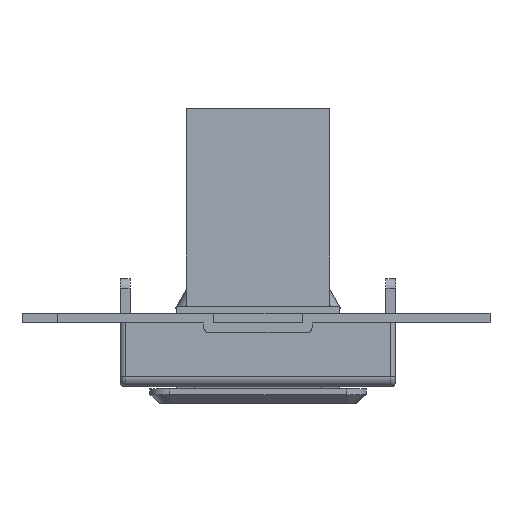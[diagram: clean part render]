
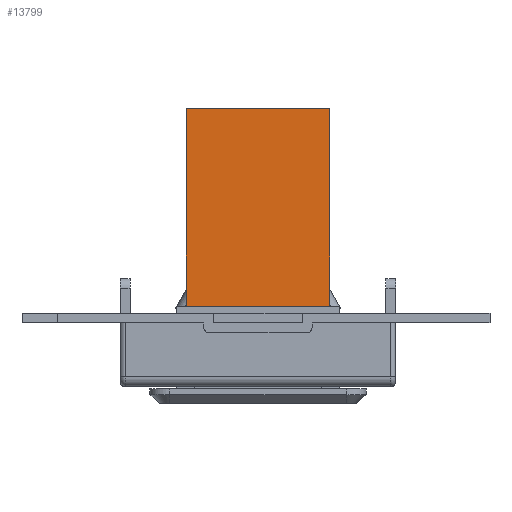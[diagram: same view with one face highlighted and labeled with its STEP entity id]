
A CAD part, front view. The second image highlights one B-rep face of the part: STEP entity #13799.
In plain terms, the highlighted free-form (B-spline) face has degree [1, 1] with [2, 2] control points.
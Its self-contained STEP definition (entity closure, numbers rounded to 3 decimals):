
#8821 = EDGE_CURVE('',#8822,#8824,#8826,.T.);
#8822 = VERTEX_POINT('',#8823);
#8823 = CARTESIAN_POINT('',(30.,0.,0.));
#8824 = VERTEX_POINT('',#8825);
#8825 = CARTESIAN_POINT('',(0.,0.,0.));
#8826 = B_SPLINE_CURVE_WITH_KNOTS('',5,(#8827,#8828,#8829,#8830,#8831,
    #8832),.UNSPECIFIED.,.F.,.F.,(6,6),(0.,30.),
  .PIECEWISE_BEZIER_KNOTS.);
#8827 = CARTESIAN_POINT('',(30.,0.,0.));
#8828 = CARTESIAN_POINT('',(24.,0.,0.));
#8829 = CARTESIAN_POINT('',(18.,0.,0.));
#8830 = CARTESIAN_POINT('',(12.,0.,0.));
#8831 = CARTESIAN_POINT('',(6.,0.,0.));
#8832 = CARTESIAN_POINT('',(0.,0.,0.));
#10852 = VERTEX_POINT('',#10853);
#10853 = CARTESIAN_POINT('',(8.139,3.256,0.));
#10864 = VERTEX_POINT('',#10865);
#10865 = CARTESIAN_POINT('',(8.139,11.369,0.));
#10874 = EDGE_CURVE('',#10852,#10864,#10875,.T.);
#10875 = B_SPLINE_CURVE_WITH_KNOTS('',5,(#10876,#10877,#10878,#10879,
    #10880,#10881),.UNSPECIFIED.,.F.,.F.,(6,6),(0.,8.113),
  .PIECEWISE_BEZIER_KNOTS.);
#10876 = CARTESIAN_POINT('',(8.139,3.256,0.));
#10877 = CARTESIAN_POINT('',(8.139,4.878,0.));
#10878 = CARTESIAN_POINT('',(8.139,6.501,0.));
#10879 = CARTESIAN_POINT('',(8.139,8.124,0.));
#10880 = CARTESIAN_POINT('',(8.139,9.746,0.));
#10881 = CARTESIAN_POINT('',(8.139,11.369,0.));
#10892 = VERTEX_POINT('',#10893);
#10893 = CARTESIAN_POINT('',(6.556,3.256,0.));
#10902 = EDGE_CURVE('',#10903,#10892,#10905,.T.);
#10903 = VERTEX_POINT('',#10904);
#10904 = CARTESIAN_POINT('',(6.556,11.369,0.));
#10905 = B_SPLINE_CURVE_WITH_KNOTS('',5,(#10906,#10907,#10908,#10909,
    #10910,#10911),.UNSPECIFIED.,.F.,.F.,(6,6),(0.,8.113),
  .PIECEWISE_BEZIER_KNOTS.);
#10906 = CARTESIAN_POINT('',(6.556,11.369,0.));
#10907 = CARTESIAN_POINT('',(6.556,9.746,0.));
#10908 = CARTESIAN_POINT('',(6.556,8.124,0.));
#10909 = CARTESIAN_POINT('',(6.556,6.501,0.));
#10910 = CARTESIAN_POINT('',(6.556,4.878,0.));
#10911 = CARTESIAN_POINT('',(6.556,3.256,0.));
#10934 = EDGE_CURVE('',#10892,#10852,#10935,.T.);
#10935 = B_SPLINE_CURVE_WITH_KNOTS('',5,(#10936,#10937,#10938,#10939,
    #10940,#10941),.UNSPECIFIED.,.F.,.F.,(6,6),(0.,1.583),
  .PIECEWISE_BEZIER_KNOTS.);
#10936 = CARTESIAN_POINT('',(6.556,3.256,0.));
#10937 = CARTESIAN_POINT('',(6.872,3.256,0.));
#10938 = CARTESIAN_POINT('',(7.189,3.256,0.));
#10939 = CARTESIAN_POINT('',(7.505,3.256,0.));
#10940 = CARTESIAN_POINT('',(7.822,3.256,0.));
#10941 = CARTESIAN_POINT('',(8.139,3.256,0.));
#10952 = EDGE_CURVE('',#10864,#10903,#10953,.T.);
#10953 = B_SPLINE_CURVE_WITH_KNOTS('',5,(#10954,#10955,#10956,#10957,
    #10958,#10959),.UNSPECIFIED.,.F.,.F.,(6,6),(0.,1.583),
  .PIECEWISE_BEZIER_KNOTS.);
#10954 = CARTESIAN_POINT('',(8.139,11.369,0.));
#10955 = CARTESIAN_POINT('',(7.822,11.369,0.));
#10956 = CARTESIAN_POINT('',(7.505,11.369,0.));
#10957 = CARTESIAN_POINT('',(7.189,11.369,0.));
#10958 = CARTESIAN_POINT('',(6.872,11.369,0.));
#10959 = CARTESIAN_POINT('',(6.556,11.369,0.));
#10974 = VERTEX_POINT('',#10975);
#10975 = CARTESIAN_POINT('',(5.609,3.256,0.));
#10984 = EDGE_CURVE('',#10985,#10974,#10987,.T.);
#10985 = VERTEX_POINT('',#10986);
#10986 = CARTESIAN_POINT('',(5.609,11.369,0.));
#10987 = B_SPLINE_CURVE_WITH_KNOTS('',5,(#10988,#10989,#10990,#10991,
    #10992,#10993),.UNSPECIFIED.,.F.,.F.,(6,6),(0.,8.113),
  .PIECEWISE_BEZIER_KNOTS.);
#10988 = CARTESIAN_POINT('',(5.609,11.369,0.));
#10989 = CARTESIAN_POINT('',(5.609,9.746,0.));
#10990 = CARTESIAN_POINT('',(5.609,8.124,0.));
#10991 = CARTESIAN_POINT('',(5.609,6.501,0.));
#10992 = CARTESIAN_POINT('',(5.609,4.878,0.));
#10993 = CARTESIAN_POINT('',(5.609,3.256,0.));
#11064 = VERTEX_POINT('',#11065);
#11065 = CARTESIAN_POINT('',(5.957,3.256,0.));
#11076 = VERTEX_POINT('',#11077);
#11077 = CARTESIAN_POINT('',(5.957,11.369,0.));
#11086 = EDGE_CURVE('',#11064,#11076,#11087,.T.);
#11087 = B_SPLINE_CURVE_WITH_KNOTS('',5,(#11088,#11089,#11090,#11091,
    #11092,#11093),.UNSPECIFIED.,.F.,.F.,(6,6),(0.,8.113),
  .PIECEWISE_BEZIER_KNOTS.);
#11088 = CARTESIAN_POINT('',(5.957,3.256,0.));
#11089 = CARTESIAN_POINT('',(5.957,4.878,0.));
#11090 = CARTESIAN_POINT('',(5.957,6.501,0.));
#11091 = CARTESIAN_POINT('',(5.957,8.124,0.));
#11092 = CARTESIAN_POINT('',(5.957,9.746,0.));
#11093 = CARTESIAN_POINT('',(5.957,11.369,0.));
#11106 = EDGE_CURVE('',#11076,#10985,#11107,.T.);
#11107 = B_SPLINE_CURVE_WITH_KNOTS('',5,(#11108,#11109,#11110,#11111,
    #11112,#11113),.UNSPECIFIED.,.F.,.F.,(6,6),(0.,0.348),
  .PIECEWISE_BEZIER_KNOTS.);
#11108 = CARTESIAN_POINT('',(5.957,11.369,0.));
#11109 = CARTESIAN_POINT('',(5.888,11.369,0.));
#11110 = CARTESIAN_POINT('',(5.818,11.369,0.));
#11111 = CARTESIAN_POINT('',(5.749,11.369,0.));
#11112 = CARTESIAN_POINT('',(5.679,11.369,0.));
#11113 = CARTESIAN_POINT('',(5.609,11.369,0.));
#11124 = EDGE_CURVE('',#10974,#11064,#11125,.T.);
#11125 = B_SPLINE_CURVE_WITH_KNOTS('',5,(#11126,#11127,#11128,#11129,
    #11130,#11131),.UNSPECIFIED.,.F.,.F.,(6,6),(0.,0.348),
  .PIECEWISE_BEZIER_KNOTS.);
#11126 = CARTESIAN_POINT('',(5.609,3.256,0.));
#11127 = CARTESIAN_POINT('',(5.679,3.256,0.));
#11128 = CARTESIAN_POINT('',(5.749,3.256,0.));
#11129 = CARTESIAN_POINT('',(5.818,3.256,0.));
#11130 = CARTESIAN_POINT('',(5.888,3.256,0.));
#11131 = CARTESIAN_POINT('',(5.957,3.256,0.));
#13762 = VERTEX_POINT('',#13763);
#13763 = CARTESIAN_POINT('',(0.,14.624,0.));
#13772 = EDGE_CURVE('',#8824,#13762,#13773,.T.);
#13773 = B_SPLINE_CURVE_WITH_KNOTS('',5,(#13774,#13775,#13776,#13777,
    #13778,#13779),.UNSPECIFIED.,.F.,.F.,(6,6),(0.,14.624),
  .PIECEWISE_BEZIER_KNOTS.);
#13774 = CARTESIAN_POINT('',(0.,0.,0.));
#13775 = CARTESIAN_POINT('',(0.,2.925,0.));
#13776 = CARTESIAN_POINT('',(0.,5.85,0.));
#13777 = CARTESIAN_POINT('',(0.,8.775,0.));
#13778 = CARTESIAN_POINT('',(0.,11.7,0.));
#13779 = CARTESIAN_POINT('',(0.,14.624,0.));
#13799 = ADVANCED_FACE('',(#13800,#13824,#13830),#13836,.T.);
#13800 = FACE_BOUND('',#13801,.T.);
#13801 = EDGE_LOOP('',(#13802,#13803,#13804,#13815));
#13802 = ORIENTED_EDGE('',*,*,#8821,.T.);
#13803 = ORIENTED_EDGE('',*,*,#13772,.T.);
#13804 = ORIENTED_EDGE('',*,*,#13805,.F.);
#13805 = EDGE_CURVE('',#13806,#13762,#13808,.T.);
#13806 = VERTEX_POINT('',#13807);
#13807 = CARTESIAN_POINT('',(30.,14.624,0.));
#13808 = B_SPLINE_CURVE_WITH_KNOTS('',5,(#13809,#13810,#13811,#13812,
    #13813,#13814),.UNSPECIFIED.,.F.,.F.,(6,6),(0.,30.),
  .PIECEWISE_BEZIER_KNOTS.);
#13809 = CARTESIAN_POINT('',(30.,14.624,0.));
#13810 = CARTESIAN_POINT('',(24.,14.624,0.));
#13811 = CARTESIAN_POINT('',(18.,14.624,0.));
#13812 = CARTESIAN_POINT('',(12.,14.624,0.));
#13813 = CARTESIAN_POINT('',(6.,14.624,0.));
#13814 = CARTESIAN_POINT('',(0.,14.624,0.));
#13815 = ORIENTED_EDGE('',*,*,#13816,.F.);
#13816 = EDGE_CURVE('',#8822,#13806,#13817,.T.);
#13817 = B_SPLINE_CURVE_WITH_KNOTS('',5,(#13818,#13819,#13820,#13821,
    #13822,#13823),.UNSPECIFIED.,.F.,.F.,(6,6),(0.,14.624),
  .PIECEWISE_BEZIER_KNOTS.);
#13818 = CARTESIAN_POINT('',(30.,0.,0.));
#13819 = CARTESIAN_POINT('',(30.,2.925,0.));
#13820 = CARTESIAN_POINT('',(30.,5.85,0.));
#13821 = CARTESIAN_POINT('',(30.,8.775,0.));
#13822 = CARTESIAN_POINT('',(30.,11.7,0.));
#13823 = CARTESIAN_POINT('',(30.,14.624,0.));
#13824 = FACE_BOUND('',#13825,.T.);
#13825 = EDGE_LOOP('',(#13826,#13827,#13828,#13829));
#13826 = ORIENTED_EDGE('',*,*,#10902,.T.);
#13827 = ORIENTED_EDGE('',*,*,#10934,.T.);
#13828 = ORIENTED_EDGE('',*,*,#10874,.T.);
#13829 = ORIENTED_EDGE('',*,*,#10952,.T.);
#13830 = FACE_BOUND('',#13831,.T.);
#13831 = EDGE_LOOP('',(#13832,#13833,#13834,#13835));
#13832 = ORIENTED_EDGE('',*,*,#11086,.T.);
#13833 = ORIENTED_EDGE('',*,*,#11106,.T.);
#13834 = ORIENTED_EDGE('',*,*,#10984,.T.);
#13835 = ORIENTED_EDGE('',*,*,#11124,.T.);
#13836 = B_SPLINE_SURFACE_WITH_KNOTS('',1,1,(
    (#13837,#13838)
    ,(#13839,#13840
    )),.UNSPECIFIED.,.F.,.F.,.F.,(2,2),(2,2),(0.,2.051),(0.,1.),
  .PIECEWISE_BEZIER_KNOTS.);
#13837 = CARTESIAN_POINT('',(30.,-0.,-0.));
#13838 = CARTESIAN_POINT('',(30.,14.624,0.));
#13839 = CARTESIAN_POINT('',(0.,-0.,-0.));
#13840 = CARTESIAN_POINT('',(0.,14.624,0.));
